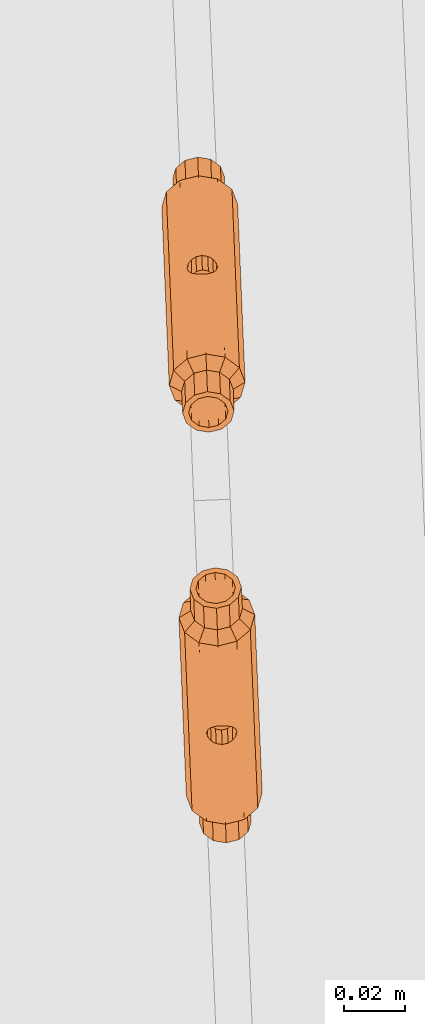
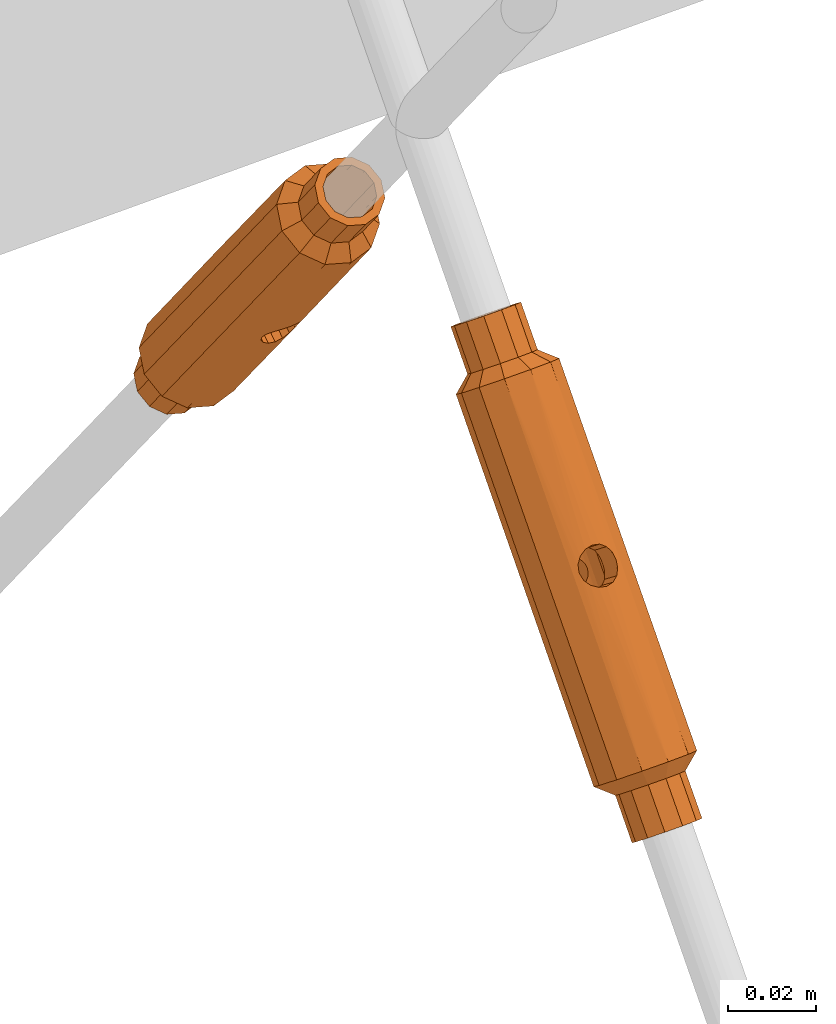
# One storey, part 286 of 288: 2 proxies.
"""IFC2X3 building model written with IfcOpenShell, lengths in millimetres."""

from ifc_helpers import new_model, entity, si_unit, converted_unit, origin_with_axes, place, context, project, spatial, faceted_brep, material, element, save


model = new_model("IFC2X3")

# Units and contexts
model_context = context("Model", 3, precision=1e-09, world=origin_with_axes())
ifc_project = project(units=[si_unit("LENGTHUNIT", "METRE", prefix="MILLI"), si_unit("AREAUNIT", "SQUARE_METRE"), si_unit("VOLUMEUNIT", "CUBIC_METRE"), converted_unit("PLANEANGLEUNIT", "DEGREE", entity("IfcPlaneAngleMeasure", 0.01745329), si_unit("PLANEANGLEUNIT", "RADIAN"), dimensions=[0, 0, 0, 0, 0, 0, 0])], contexts=[model_context])

# Site, building, storey
site_placement = place(None, origin_with_axes())
site = spatial("IfcSite", under=ifc_project, at=site_placement, Name="Remont ?wietlik?w nad MC w NCPP w Opolu", CompositionType="ELEMENT")
building_placement = place(site_placement, origin_with_axes())
building = spatial("IfcBuilding", under=site, at=building_placement, Name="Konstrukcja 1", CompositionType="ELEMENT")
storey_placement = place(building_placement, origin_with_axes())
storey = spatial("IfcBuildingStorey", under=building, at=storey_placement, Name="Default Storey", CompositionType="ELEMENT", Elevation=0.0)

# Proxies
ifc_material = material(Name="Brak")
proxy_1_placement = place(None, origin_with_axes())
element("IfcBuildingElementProxy", 1, at=proxy_1_placement, inside=storey, material=ifc_material, ObjectType="Turnbuckle", context=model_context, shape_type="Brep", body=[
    faceted_brep([(-711.200481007, 13774.653196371, 567.079519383), (-712.312588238, 13776.250450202, 567.788107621), (-712.086158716, 13770.729150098, 572.143666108), (-712.5768896, 13815.267557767, 619.090882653), (-709.797248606, 13779.122651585, 573.912081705), (-711.380934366, 13778.979775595, 572.588293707), (-712.686591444, 13778.287302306, 569.894572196), (-712.412075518, 13778.635773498, 570.825196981), (-712.185171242, 13773.103090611, 575.166262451), (-712.635506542, 13777.062482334, 568.335082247), (-712.524884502, 13772.025910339, 573.555985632), (-709.301182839, 13814.718954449, 619.629058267), (-709.560747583, 13773.45226442, 566.692317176), (-710.954554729, 13769.486176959, 571.106712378), (-707.562842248, 13773.040216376, 566.562016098), (-709.303548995, 13768.601846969, 570.480670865), (-709.357740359, 13738.084709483, 520.818582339), (-713.784105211, 13746.109079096, 528.999212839), (-717.292436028, 13746.543310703, 532.994934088), (-719.170423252, 13751.382870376, 529.132436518), (-715.057131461, 13749.389658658, 526.380951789), (-712.571198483, 13743.140081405, 535.822478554), (-707.366273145, 13768.327243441, 570.270013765), (-707.820374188, 13779.214844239, 574.423800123), (-715.017751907, 13801.799046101, 610.509426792), (-711.136588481, 13773.850647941, 576.66373201), (-709.541247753, 13774.300951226, 577.736999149), (-719.738989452, 13805.202275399, 607.681882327), (-712.764146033, 13777.762483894, 569.042655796), (-715.031933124, 13817.037237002, 617.620559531), (-711.812783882, 13739.854388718, 519.348259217), (-714.78759994, 13742.287616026, 517.339760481), (-713.510568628, 13738.996715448, 519.966258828), (-714.061704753, 13752.764851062, 523.76269074), (-713.789041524, 13745.673427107, 514.713262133), (-709.235659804, 13813.147963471, 620.865057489), (-705.026659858, 13814.219578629, 620.161289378), (-702.020074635, 13816.793074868, 618.238559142), (-701.021516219, 13820.178885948, 615.612060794), (-702.298547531, 13823.469786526, 612.985562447), (-705.508989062, 13825.783982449, 611.06283221), (-709.792605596, 13826.501386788, 610.359064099), (-714.001605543, 13825.42977163, 611.06283221), (-717.008190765, 13822.856275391, 612.985562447), (-718.006749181, 13819.47046431, 615.612060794), (-716.72971787, 13816.179563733, 618.238559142), (-713.519276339, 13813.86536781, 620.161289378), (-703.783382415, 13817.506392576, 617.620559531), (-706.082535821, 13815.538424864, 619.090882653), (-716.00848648, 13819.553808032, 615.612060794), (-715.244882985, 13822.142957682, 613.603562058), (-712.94572958, 13824.110925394, 612.133238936), (-709.727082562, 13824.930395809, 611.595063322), (-706.4513758, 13824.381792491, 612.133238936), (-703.996332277, 13822.612113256, 613.603562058), (-703.019778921, 13820.095542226, 615.612060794), (-706.082033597, 13737.536106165, 521.356757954), (-710.300127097, 13736.682519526, 521.888989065), (-710.583732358, 13743.80214102, 530.915912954), (-706.271762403, 13742.085075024, 536.857431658), (-705.606187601, 13773.617201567, 566.692317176), (-705.458592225, 13768.762212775, 570.480670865), (-705.842688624, 13779.287588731, 573.912081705), (-707.623805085, 13774.501871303, 578.13179779), (-713.223114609, 13806.764545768, 611.120237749), (-708.939498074, 13806.047141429, 611.824005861), (-704.25260567, 13779.277084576, 572.588293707), (-710.782456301, 13748.246923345, 512.790531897), (-706.573456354, 13749.318538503, 512.086763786), (-702.28983982, 13748.601134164, 512.790531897), (-699.079398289, 13746.286938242, 514.713262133), (-697.802366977, 13742.996037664, 517.339760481), (-698.800925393, 13739.610226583, 519.966258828), (-701.807510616, 13737.036730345, 521.888989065), (-706.016510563, 13735.965115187, 522.592757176), (-703.232226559, 13747.198944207, 513.860938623), (-706.50793332, 13747.747547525, 513.322763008), (-709.726580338, 13746.92807711, 513.860938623), (-712.025733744, 13744.960109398, 515.331261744), (-712.789337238, 13742.370959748, 517.339760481), (-702.863386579, 13738.35557658, 520.818582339), (-700.564233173, 13740.323544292, 519.348259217), (-699.800629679, 13742.912693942, 517.339760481), (-700.777183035, 13745.429264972, 515.331261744), (-711.556510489, 13783.189417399, 560.363527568), (-712.612715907, 13783.446360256, 562.126624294), (-709.966427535, 13783.178913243, 559.03973957), (-717.701954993, 13756.362004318, 525.269938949), (-721.616976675, 13810.041835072, 603.819384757), (-716.433556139, 13809.07874169, 609.197507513), (-711.064548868, 13755.330276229, 521.845990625), (-703.88695991, 13769.780952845, 571.106712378), (-704.072152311, 13774.950505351, 567.079519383), (-705.696290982, 13774.461317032, 577.736999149), (-708.718315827, 13800.74403972, 611.544379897), (-704.068993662, 13774.145423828, 576.66373201), (-703.196400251, 13779.020141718, 570.825196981), (-702.961802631, 13773.487779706, 575.166262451), (-702.893820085, 13778.695740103, 569.894572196), (-703.096912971, 13776.634818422, 567.788107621), (-702.862790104, 13771.113839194, 572.143666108), (-712.847313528, 13788.978722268, 557.785558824), (-711.740122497, 13788.321078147, 556.288089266), (-707.988741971, 13783.251657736, 558.528021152), (-710.112825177, 13788.005184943, 555.214822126), (-712.915296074, 13783.770761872, 563.057249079), (-706.313550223, 13743.086986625, 531.617473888), (-702.772832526, 13778.179202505, 569.042655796), (-702.533570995, 13772.442628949, 573.555985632), (-702.842735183, 13777.470920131, 568.335082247), (-704.730498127, 13807.118756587, 611.120237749), (-706.868749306, 13756.398530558, 521.144429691), (-706.011867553, 13783.34385039, 559.03973957), (-708.185311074, 13787.964630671, 554.820023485), (-713.275545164, 13790.023873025, 559.395835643), (-713.280506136, 13760.14655761, 522.442394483), (-720.148508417, 13815.020969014, 599.956887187), (-717.710587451, 13812.369642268, 606.571009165), (-713.036283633, 13784.287299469, 563.909165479), (-700.082056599, 13743.660979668, 535.822478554), (-702.528610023, 13802.319944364, 610.509426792), (-707.090800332, 13761.722462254, 521.407441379), (-706.267868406, 13788.165550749, 555.214822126), (-712.966380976, 13784.995581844, 564.616739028), (-702.117750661, 13744.155240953, 530.915912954), (-701.723912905, 13809.692252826, 609.197507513), (-703.397040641, 13783.830728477, 562.126624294), (-704.428181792, 13783.486726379, 560.363527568), (-702.598567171, 13755.683376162, 521.845990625), (-704.672527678, 13788.615854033, 556.288089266), (-712.946326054, 13791.352662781, 560.808155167), (-715.72705956, 13818.805522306, 597.129342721), (-716.712029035, 13815.755453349, 603.944510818), (-712.712203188, 13785.831683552, 565.163713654), (-711.736963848, 13787.515996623, 565.872301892), (-711.922156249, 13792.68554913, 561.845108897), (-710.202928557, 13788.849300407, 566.259504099), (-710.350523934, 13793.704289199, 562.47115041), (-708.246273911, 13789.426285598, 566.389805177), (-703.122524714, 13784.179199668, 563.057249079), (-703.044970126, 13784.70401808, 563.909165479), (-703.623944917, 13789.363411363, 557.785558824), (-703.173609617, 13785.40401964, 564.616739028), (-708.442843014, 13794.139258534, 562.68180751), (-699.120594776, 13746.72066612, 528.999212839), (-695.660607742, 13747.44553296, 532.994934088), (-698.107161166, 13806.104497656, 607.681882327), (-706.248368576, 13789.014237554, 566.259504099), (-704.608635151, 13787.813305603, 565.872301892), (-700.725354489, 13813.078063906, 606.571009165), (-703.496527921, 13786.216051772, 565.163713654), (-703.284231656, 13790.440591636, 559.395835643), (-703.722957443, 13791.737351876, 560.808155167), (-698.125168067, 13750.095858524, 526.380951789), (-699.398194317, 13753.376438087, 523.76269074), (-700.791364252, 13760.667455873, 522.442394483), (-704.85456143, 13792.980325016, 561.845108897), (-706.505567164, 13793.864655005, 562.47115041), (-709.537353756, 13820.38142695, 596.094389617), (-713.705443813, 13818.328949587, 602.021780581), (-694.192139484, 13752.424666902, 529.132436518), (-696.638692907, 13811.083631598, 603.819384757), (-702.002385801, 13816.368964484, 603.944510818), (-703.237917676, 13819.326420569, 597.129342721), (-696.070126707, 13757.264226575, 525.269938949), (-709.496443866, 13819.400564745, 601.31801247), (-698.51668013, 13815.923191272, 599.956887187), (-705.212827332, 13818.683160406, 602.021780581)], [[[0, 1, 2]], [[3, 4, 5]], [[6, 7, 8]], [[9, 10, 2]], [[1, 9, 2]], [[3, 5, 7]], [[3, 11, 4]], [[12, 0, 13]], [[14, 12, 15]], [[16, 1, 0]], [[17, 18, 19, 20]], [[12, 13, 15]], [[0, 2, 13]], [[21, 2, 10]], [[14, 15, 22]], [[11, 23, 4]], [[7, 5, 8]], [[6, 8, 10]], [[24, 21, 10]], [[5, 4, 25]], [[4, 23, 26]], [[21, 24, 27, 18]], [[28, 6, 10]], [[29, 7, 6]], [[9, 28, 10]], [[30, 9, 1]], [[20, 31, 32, 17]], [[33, 34, 31, 20]], [[29, 3, 7]], [[35, 36, 37, 38, 39, 40, 41, 42, 43, 44, 45, 46], [47, 48, 11, 3, 29, 49, 50, 51, 52, 53, 54, 55]], [[16, 0, 12]], [[56, 12, 14]], [[16, 30, 1]], [[17, 32, 57, 58]], [[18, 17, 58, 21]], [[59, 15, 13]], [[21, 13, 2]], [[60, 14, 61]], [[14, 22, 61]], [[59, 22, 15]], [[11, 62, 23]], [[23, 63, 26]], [[5, 25, 8]], [[24, 10, 8]], [[4, 26, 25]], [[46, 64, 65, 35]], [[48, 66, 62]], [[11, 48, 62]], [[67, 68, 69, 70, 71, 72, 73, 74, 57, 32, 31, 34], [75, 76, 77, 78, 79, 30, 16, 56, 80, 81, 82, 83]], [[77, 84, 85]], [[77, 86, 84]], [[77, 76, 86]], [[20, 19, 87, 33]], [[18, 27, 88, 19]], [[64, 46, 45, 89]], [[78, 77, 85]], [[29, 6, 28]], [[30, 28, 9]], [[34, 33, 90, 67]], [[56, 16, 12]], [[56, 14, 60]], [[21, 59, 13]], [[60, 61, 91]], [[59, 61, 22]], [[92, 60, 91]], [[23, 62, 93]], [[23, 93, 63]], [[94, 26, 63]], [[62, 66, 95]], [[66, 96, 97]], [[24, 8, 25]], [[94, 25, 26]], [[24, 64, 89, 27]], [[47, 98, 96]], [[48, 96, 66]], [[99, 92, 100]], [[80, 60, 92]], [[101, 85, 84]], [[102, 84, 86]], [[76, 103, 86]], [[104, 86, 103]], [[101, 105, 85]], [[78, 85, 105]], [[30, 29, 28]], [[80, 56, 60]], [[58, 57, 74, 106]], [[21, 58, 106, 59]], [[59, 91, 61]], [[96, 98, 97]], [[107, 108, 98]], [[107, 109, 108]], [[109, 99, 100]], [[92, 91, 100]], [[62, 95, 93]], [[94, 63, 93]], [[66, 97, 95]], [[94, 24, 25]], [[64, 24, 94, 65]], [[35, 65, 110, 36]], [[81, 109, 107]], [[47, 107, 98]], [[48, 47, 96]], [[80, 92, 99]], [[81, 99, 109]], [[67, 90, 111, 68]], [[102, 101, 84]], [[104, 102, 86]], [[76, 112, 103]], [[113, 104, 103]], [[101, 114, 105]], [[33, 87, 115, 90]], [[19, 88, 116, 87]], [[27, 89, 117, 88]], [[89, 45, 44, 117]], [[114, 118, 105]], [[78, 105, 118]], [[29, 30, 79, 49]], [[59, 119, 91]], [[98, 108, 97]], [[109, 100, 108]], [[119, 100, 91]], [[94, 93, 95]], [[120, 95, 97]], [[47, 81, 107]], [[81, 80, 99]], [[76, 75, 112]], [[115, 101, 102]], [[121, 102, 104]], [[122, 103, 112]], [[122, 113, 103]], [[121, 104, 113]], [[115, 114, 101]], [[114, 123, 118]], [[50, 78, 118]], [[78, 50, 49, 79]], [[106, 74, 73, 124]], [[59, 106, 124, 119]], [[120, 97, 108]], [[119, 108, 100]], [[120, 94, 95]], [[65, 94, 120, 110]], [[36, 110, 125, 37]], [[81, 47, 55, 82]], [[75, 83, 126]], [[75, 127, 112]], [[75, 126, 127]], [[68, 111, 128, 69]], [[90, 115, 121, 111]], [[121, 115, 102]], [[129, 122, 112]], [[121, 113, 122]], [[114, 130, 123]], [[115, 131, 114]], [[87, 116, 131, 115]], [[88, 117, 132, 116]], [[117, 44, 43, 132]], [[130, 133, 123]], [[50, 118, 123]], [[130, 134, 133]], [[135, 136, 134]], [[137, 138, 136]], [[119, 120, 108]], [[83, 139, 126]], [[83, 140, 139]], [[129, 112, 127]], [[127, 126, 141]], [[54, 142, 140]], [[121, 122, 129]], [[137, 143, 138]], [[135, 137, 136]], [[130, 135, 134]], [[131, 130, 114]], [[50, 123, 133]], [[51, 133, 134]], [[51, 134, 136]], [[52, 136, 138]], [[124, 73, 72, 144]], [[119, 124, 144, 145]], [[120, 119, 145, 146]], [[110, 120, 146, 125]], [[52, 138, 147]], [[53, 147, 148]], [[37, 125, 149, 38]], [[53, 148, 150]], [[54, 150, 142]], [[83, 54, 140]], [[82, 55, 54, 83]], [[126, 139, 141]], [[139, 140, 151]], [[127, 141, 129]], [[140, 142, 151]], [[152, 142, 150]], [[71, 153, 144, 72]], [[70, 154, 153, 71]], [[69, 128, 154, 70]], [[111, 121, 155, 128]], [[155, 121, 129]], [[152, 150, 148]], [[156, 148, 147]], [[157, 147, 138]], [[143, 157, 138]], [[158, 143, 137]], [[158, 137, 135]], [[131, 135, 130]], [[116, 132, 159, 131]], [[132, 43, 42, 159]], [[51, 50, 133]], [[52, 51, 136]], [[53, 52, 147]], [[54, 53, 150]], [[139, 151, 141]], [[155, 129, 141]], [[152, 151, 142]], [[156, 152, 148]], [[157, 156, 147]], [[158, 157, 143]], [[131, 158, 135]], [[145, 144, 153, 160]], [[146, 145, 160, 161]], [[125, 146, 161, 149]], [[38, 149, 162, 39]], [[155, 141, 151]], [[163, 151, 152]], [[154, 164, 160, 153]], [[128, 155, 164, 154]], [[163, 152, 156]], [[158, 156, 157]], [[131, 159, 165, 158]], [[159, 42, 41, 165]], [[163, 155, 151]], [[158, 163, 156]], [[161, 160, 164, 166]], [[149, 161, 166, 162]], [[40, 167, 165, 41]], [[39, 162, 167, 40]], [[155, 163, 166, 164]], [[158, 165, 167, 163]], [[162, 166, 163, 167]]]),
])
proxy_2_placement = place(None, origin_with_axes())
element("IfcBuildingElementProxy", 2, at=proxy_2_placement, inside=storey, material=ifc_material, ObjectType="Turnbuckle", context=model_context, shape_type="Brep", body=[
    faceted_brep([(-710.244493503, 13922.939566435, 567.079519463), (-709.132386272, 13921.342312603, 567.788107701), (-709.358815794, 13926.863612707, 572.143666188), (-708.86808491, 13882.325205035, 619.09088273), (-711.647725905, 13918.47011122, 573.912081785), (-710.064040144, 13918.61298721, 572.588293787), (-708.758383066, 13919.305460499, 569.894572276), (-709.032898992, 13918.956989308, 570.825197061), (-709.259803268, 13924.489672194, 575.166262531), (-708.809467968, 13920.530280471, 568.335082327), (-708.920090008, 13925.566852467, 573.555985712), (-712.143791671, 13882.873808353, 619.629058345), (-711.884226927, 13924.140498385, 566.692317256), (-710.490419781, 13928.106585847, 571.106712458), (-713.882132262, 13924.55254643, 566.562016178), (-712.141425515, 13928.990915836, 570.480670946), (-712.087234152, 13959.508053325, 520.818582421), (-707.660869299, 13951.483683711, 528.99921292), (-704.152538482, 13951.049452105, 532.99493417), (-702.274551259, 13946.209892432, 529.1324366), (-706.387843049, 13948.203104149, 526.380951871), (-708.873776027, 13954.452681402, 535.822478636), (-714.078701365, 13929.265519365, 570.270013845), (-713.624600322, 13918.377918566, 574.423800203), (-706.427222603, 13895.793716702, 610.50942687), (-710.308386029, 13923.742114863, 576.66373209), (-711.903726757, 13923.291811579, 577.736999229), (-701.705985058, 13892.390487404, 607.681882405), (-708.680828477, 13919.830278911, 569.042655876), (-706.413041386, 13880.5555258, 617.620559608), (-709.632190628, 13957.73837409, 519.348259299), (-706.65737457, 13955.305146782, 517.339760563), (-707.934405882, 13958.59604736, 519.966258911), (-707.383269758, 13944.827911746, 523.762690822), (-707.655932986, 13951.919335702, 514.713262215), (-712.209314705, 13884.444799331, 620.865057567), (-716.418314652, 13883.373184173, 620.161289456), (-719.424899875, 13880.799687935, 618.23855922), (-720.423458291, 13877.413876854, 615.612060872), (-719.146426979, 13874.122976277, 612.985562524), (-715.935985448, 13871.808780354, 611.062832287), (-711.652368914, 13871.091376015, 610.359064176), (-707.443368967, 13872.162991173, 611.062832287), (-704.436783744, 13874.736487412, 612.985562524), (-703.438225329, 13878.122298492, 615.612060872), (-704.71525664, 13881.41319907, 618.23855922), (-707.925698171, 13883.727394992, 620.161289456), (-717.661592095, 13880.086370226, 617.620559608), (-715.362438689, 13882.054337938, 619.09088273), (-705.43648803, 13878.03895477, 615.612060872), (-706.200091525, 13875.44980512, 613.603562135), (-708.49924493, 13873.481837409, 612.133239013), (-711.717891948, 13872.662366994, 611.595063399), (-714.99359871, 13873.210970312, 612.133239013), (-717.448642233, 13874.980649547, 613.603562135), (-718.425195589, 13877.497220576, 615.612060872), (-715.362940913, 13960.056656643, 521.356758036), (-711.144847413, 13960.910243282, 521.888989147), (-710.861242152, 13953.790621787, 530.915913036), (-715.173212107, 13955.507687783, 536.85743174), (-715.838786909, 13923.975561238, 566.692317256), (-715.986382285, 13928.83055003, 570.480670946), (-715.602285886, 13918.305174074, 573.912081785), (-713.821169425, 13923.090891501, 578.13179787), (-708.221859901, 13890.828217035, 611.120237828), (-712.505476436, 13891.545621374, 611.824005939), (-717.19236884, 13918.31567823, 572.588293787), (-710.662518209, 13949.345839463, 512.790531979), (-714.871518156, 13948.274224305, 512.086763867), (-719.15513469, 13948.991628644, 512.790531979), (-722.365576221, 13951.305824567, 514.713262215), (-723.642607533, 13954.596725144, 517.339760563), (-722.644049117, 13957.982536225, 519.966258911), (-719.637463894, 13960.556032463, 521.888989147), (-715.428463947, 13961.627647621, 522.592757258), (-718.212747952, 13950.393818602, 513.860938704), (-714.93704119, 13949.845215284, 513.32276309), (-711.718394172, 13950.664685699, 513.860938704), (-709.419240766, 13952.63265341, 515.331261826), (-708.655637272, 13955.22180306, 517.339760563), (-718.581587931, 13959.237186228, 520.818582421), (-720.880741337, 13957.269218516, 519.348259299), (-721.644344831, 13954.680068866, 517.339760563), (-720.667791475, 13952.163497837, 515.331261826), (-709.888464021, 13914.403345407, 560.363527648), (-708.832258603, 13914.14640255, 562.126624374), (-711.478546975, 13914.413849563, 559.039739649), (-703.743019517, 13941.23075849, 525.26993903), (-699.827997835, 13887.550927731, 603.819384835), (-705.011418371, 13888.514021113, 609.197507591), (-710.380425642, 13942.262486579, 521.845990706), (-717.5580146, 13927.81180996, 571.106712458), (-717.372822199, 13922.642257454, 567.079519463), (-715.748683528, 13923.131445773, 577.736999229), (-712.726658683, 13896.848723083, 611.544379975), (-717.375980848, 13923.447338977, 576.66373209), (-718.248574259, 13918.572621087, 570.825197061), (-718.483171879, 13924.104983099, 575.166262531), (-718.551154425, 13918.897022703, 569.894572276), (-718.348061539, 13920.957944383, 567.788107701), (-718.582184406, 13926.478923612, 572.143666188), (-708.597660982, 13908.614040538, 557.785558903), (-709.704852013, 13909.271684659, 556.288089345), (-713.456232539, 13914.34110507, 558.528021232), (-711.332149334, 13909.587577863, 555.214822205), (-708.529678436, 13913.822000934, 563.057249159), (-715.131424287, 13954.505776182, 531.61747397), (-718.672141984, 13919.4135603, 569.042655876), (-718.911403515, 13925.150133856, 573.555985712), (-718.602239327, 13920.121842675, 568.335082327), (-716.714476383, 13890.474006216, 611.120237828), (-714.576225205, 13941.19423225, 521.144429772), (-715.433106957, 13914.248912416, 559.039739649), (-713.259663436, 13909.628132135, 554.820023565), (-708.169429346, 13907.568889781, 559.395835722), (-708.164468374, 13937.446205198, 522.442394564), (-701.296466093, 13882.57179379, 599.956887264), (-703.734387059, 13885.223120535, 606.571009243), (-708.408690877, 13913.305463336, 563.909165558), (-721.362917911, 13953.931783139, 535.822478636), (-718.916364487, 13895.272818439, 610.50942687), (-714.354174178, 13935.870300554, 521.407441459), (-715.177106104, 13909.427212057, 555.214822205), (-708.478593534, 13912.597180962, 564.616739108), (-719.327223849, 13953.437521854, 530.915913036), (-719.721061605, 13887.900509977, 609.197507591), (-718.04793387, 13913.762034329, 562.126624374), (-717.016792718, 13914.106036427, 560.363527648), (-718.84640734, 13941.909386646, 521.845990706), (-716.772446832, 13908.976908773, 556.288089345), (-708.498648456, 13906.240100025, 560.808155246), (-705.71791495, 13878.787240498, 597.129342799), (-704.732945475, 13881.837309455, 603.944510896), (-708.732771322, 13911.761079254, 565.163713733), (-709.708010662, 13910.076766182, 565.872301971), (-709.522818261, 13904.907213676, 561.845108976), (-711.242045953, 13908.743462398, 566.259504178), (-711.094450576, 13903.888473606, 562.471150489), (-713.198700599, 13908.166477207, 566.389805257), (-718.322449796, 13913.413563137, 563.057249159), (-718.400004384, 13912.888744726, 563.909165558), (-717.821029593, 13908.229351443, 557.785558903), (-718.271364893, 13912.188743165, 564.616739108), (-713.002131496, 13903.453504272, 562.681807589), (-722.324379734, 13950.872096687, 528.99921292), (-725.784366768, 13950.147229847, 532.99493417), (-723.337813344, 13891.488265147, 607.681882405), (-715.196605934, 13908.578525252, 566.259504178), (-716.836339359, 13909.779457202, 565.872301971), (-720.719620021, 13884.514698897, 606.571009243), (-717.948446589, 13911.376711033, 565.163713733), (-718.160742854, 13907.15217117, 559.395835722), (-717.722017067, 13905.85541093, 560.808155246), (-723.319806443, 13947.496904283, 526.380951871), (-722.046780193, 13944.216324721, 523.762690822), (-720.653610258, 13936.925306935, 522.442394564), (-716.59041308, 13904.61243779, 561.845108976), (-714.939407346, 13903.7281078, 562.471150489), (-711.907620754, 13877.211335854, 596.094389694), (-707.739530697, 13879.263813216, 602.021780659), (-727.252835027, 13945.168095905, 529.1324366), (-724.806281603, 13886.509131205, 603.819384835), (-719.442588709, 13881.223798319, 603.944510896), (-718.207056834, 13878.266342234, 597.129342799), (-725.374847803, 13940.328536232, 525.26993903), (-711.948530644, 13878.192198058, 601.318012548), (-722.928294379, 13881.669571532, 599.956887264), (-716.232147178, 13878.909602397, 602.021780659)], [[[0, 1, 2]], [[3, 4, 5]], [[6, 7, 8]], [[9, 10, 2]], [[1, 9, 2]], [[3, 5, 7]], [[3, 11, 4]], [[12, 0, 13]], [[14, 12, 15]], [[16, 1, 0]], [[17, 18, 19, 20]], [[12, 13, 15]], [[0, 2, 13]], [[21, 2, 10]], [[14, 15, 22]], [[11, 23, 4]], [[7, 5, 8]], [[6, 8, 10]], [[24, 21, 10]], [[5, 4, 25]], [[4, 23, 26]], [[21, 24, 27, 18]], [[28, 6, 10]], [[29, 7, 6]], [[9, 28, 10]], [[30, 9, 1]], [[20, 31, 32, 17]], [[33, 34, 31, 20]], [[29, 3, 7]], [[35, 36, 37, 38, 39, 40, 41, 42, 43, 44, 45, 46], [47, 48, 11, 3, 29, 49, 50, 51, 52, 53, 54, 55]], [[16, 0, 12]], [[56, 12, 14]], [[16, 30, 1]], [[17, 32, 57, 58]], [[18, 17, 58, 21]], [[59, 15, 13]], [[21, 13, 2]], [[60, 14, 61]], [[14, 22, 61]], [[59, 22, 15]], [[11, 62, 23]], [[23, 63, 26]], [[5, 25, 8]], [[24, 10, 8]], [[4, 26, 25]], [[46, 64, 65, 35]], [[48, 66, 62]], [[11, 48, 62]], [[67, 68, 69, 70, 71, 72, 73, 74, 57, 32, 31, 34], [75, 76, 77, 78, 79, 30, 16, 56, 80, 81, 82, 83]], [[77, 84, 85]], [[77, 86, 84]], [[77, 76, 86]], [[20, 19, 87, 33]], [[18, 27, 88, 19]], [[64, 46, 45, 89]], [[78, 77, 85]], [[29, 6, 28]], [[30, 28, 9]], [[34, 33, 90, 67]], [[56, 16, 12]], [[56, 14, 60]], [[21, 59, 13]], [[60, 61, 91]], [[59, 61, 22]], [[92, 60, 91]], [[23, 62, 93]], [[23, 93, 63]], [[94, 26, 63]], [[62, 66, 95]], [[66, 96, 97]], [[24, 8, 25]], [[94, 25, 26]], [[24, 64, 89, 27]], [[47, 98, 96]], [[48, 96, 66]], [[99, 92, 100]], [[80, 60, 92]], [[101, 85, 84]], [[102, 84, 86]], [[76, 103, 86]], [[104, 86, 103]], [[101, 105, 85]], [[78, 85, 105]], [[30, 29, 28]], [[80, 56, 60]], [[58, 57, 74, 106]], [[21, 58, 106, 59]], [[59, 91, 61]], [[96, 98, 97]], [[107, 108, 98]], [[107, 109, 108]], [[109, 99, 100]], [[92, 91, 100]], [[62, 95, 93]], [[94, 63, 93]], [[66, 97, 95]], [[94, 24, 25]], [[64, 24, 94, 65]], [[35, 65, 110, 36]], [[81, 109, 107]], [[47, 107, 98]], [[48, 47, 96]], [[80, 92, 99]], [[81, 99, 109]], [[67, 90, 111, 68]], [[102, 101, 84]], [[104, 102, 86]], [[76, 112, 103]], [[113, 104, 103]], [[101, 114, 105]], [[33, 87, 115, 90]], [[19, 88, 116, 87]], [[27, 89, 117, 88]], [[89, 45, 44, 117]], [[114, 118, 105]], [[78, 105, 118]], [[29, 30, 79, 49]], [[59, 119, 91]], [[98, 108, 97]], [[109, 100, 108]], [[119, 100, 91]], [[94, 93, 95]], [[120, 95, 97]], [[47, 81, 107]], [[81, 80, 99]], [[76, 75, 112]], [[115, 101, 102]], [[121, 102, 104]], [[122, 103, 112]], [[122, 113, 103]], [[121, 104, 113]], [[115, 114, 101]], [[114, 123, 118]], [[50, 78, 118]], [[78, 50, 49, 79]], [[106, 74, 73, 124]], [[59, 106, 124, 119]], [[120, 97, 108]], [[119, 108, 100]], [[120, 94, 95]], [[65, 94, 120, 110]], [[36, 110, 125, 37]], [[81, 47, 55, 82]], [[75, 83, 126]], [[75, 127, 112]], [[75, 126, 127]], [[68, 111, 128, 69]], [[90, 115, 121, 111]], [[121, 115, 102]], [[129, 122, 112]], [[121, 113, 122]], [[114, 130, 123]], [[115, 131, 114]], [[87, 116, 131, 115]], [[88, 117, 132, 116]], [[117, 44, 43, 132]], [[130, 133, 123]], [[50, 118, 123]], [[130, 134, 133]], [[135, 136, 134]], [[137, 138, 136]], [[119, 120, 108]], [[83, 139, 126]], [[83, 140, 139]], [[129, 112, 127]], [[127, 126, 141]], [[54, 142, 140]], [[121, 122, 129]], [[137, 143, 138]], [[135, 137, 136]], [[130, 135, 134]], [[131, 130, 114]], [[50, 123, 133]], [[51, 133, 134]], [[51, 134, 136]], [[52, 136, 138]], [[124, 73, 72, 144]], [[119, 124, 144, 145]], [[120, 119, 145, 146]], [[110, 120, 146, 125]], [[52, 138, 147]], [[53, 147, 148]], [[37, 125, 149, 38]], [[53, 148, 150]], [[54, 150, 142]], [[83, 54, 140]], [[82, 55, 54, 83]], [[126, 139, 141]], [[139, 140, 151]], [[127, 141, 129]], [[140, 142, 151]], [[152, 142, 150]], [[71, 153, 144, 72]], [[70, 154, 153, 71]], [[69, 128, 154, 70]], [[111, 121, 155, 128]], [[155, 121, 129]], [[152, 150, 148]], [[156, 148, 147]], [[157, 147, 138]], [[143, 157, 138]], [[158, 143, 137]], [[158, 137, 135]], [[131, 135, 130]], [[116, 132, 159, 131]], [[132, 43, 42, 159]], [[51, 50, 133]], [[52, 51, 136]], [[53, 52, 147]], [[54, 53, 150]], [[139, 151, 141]], [[155, 129, 141]], [[152, 151, 142]], [[156, 152, 148]], [[157, 156, 147]], [[158, 157, 143]], [[131, 158, 135]], [[145, 144, 153, 160]], [[146, 145, 160, 161]], [[125, 146, 161, 149]], [[38, 149, 162, 39]], [[155, 141, 151]], [[163, 151, 152]], [[154, 164, 160, 153]], [[128, 155, 164, 154]], [[163, 152, 156]], [[158, 156, 157]], [[131, 159, 165, 158]], [[159, 42, 41, 165]], [[163, 155, 151]], [[158, 163, 156]], [[161, 160, 164, 166]], [[149, 161, 166, 162]], [[40, 167, 165, 41]], [[39, 162, 167, 40]], [[155, 163, 166, 164]], [[158, 165, 167, 163]], [[162, 166, 163, 167]]]),
])

save(model, "model.ifc")
